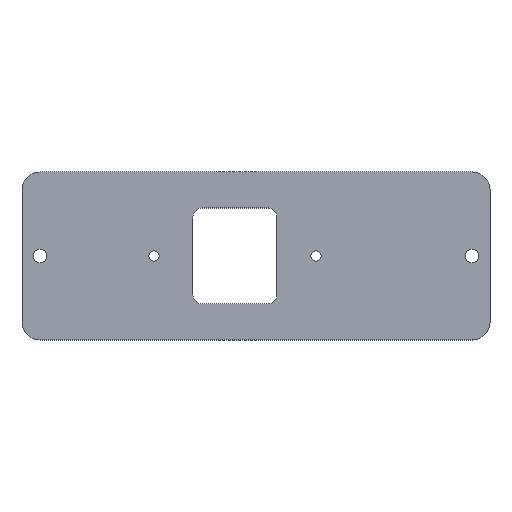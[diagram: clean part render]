
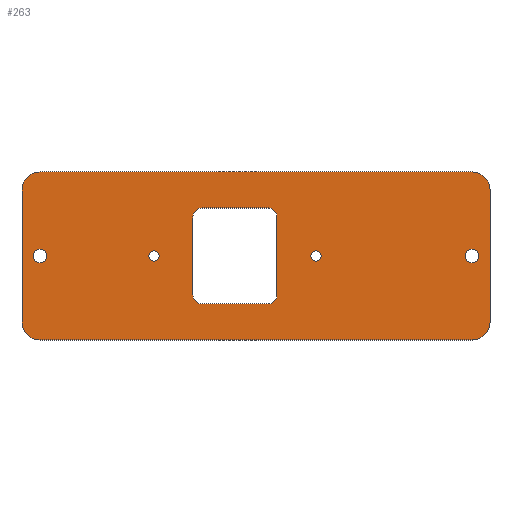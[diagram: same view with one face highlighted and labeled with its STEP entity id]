
A CAD part, top view. The second image highlights one B-rep face of the part: STEP entity #263.
In plain terms, the highlighted planar face has unit normal (0, 0, 1).
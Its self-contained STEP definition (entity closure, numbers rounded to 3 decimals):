
#33 = VERTEX_POINT('',#34);
#34 = CARTESIAN_POINT('',(-9.,15.,-1.2));
#40 = EDGE_CURVE('',#41,#33,#43,.T.);
#41 = VERTEX_POINT('',#42);
#42 = CARTESIAN_POINT('',(-15.,21.,-1.2));
#43 = CIRCLE('',#44,6.);
#44 = AXIS2_PLACEMENT_3D('',#45,#46,#47);
#45 = CARTESIAN_POINT('',(-9.,21.,-1.2));
#46 = DIRECTION('',(0.,0.,1.));
#47 = DIRECTION('',(1.,0.,-0.));
#246 = VERTEX_POINT('',#247);
#247 = CARTESIAN_POINT('',(-15.,65.,-1.2));
#253 = EDGE_CURVE('',#41,#246,#254,.T.);
#254 = LINE('',#255,#256);
#255 = CARTESIAN_POINT('',(-15.,21.,-1.2));
#256 = VECTOR('',#257,1.);
#257 = DIRECTION('',(-0.,1.,0.));
#263 = ADVANCED_FACE('',(#264,#317,#328,#339,#409,#420),#431,.T.);
#264 = FACE_BOUND('',#265,.T.);
#265 = EDGE_LOOP('',(#266,#267,#275,#284,#292,#301,#309,#316));
#266 = ORIENTED_EDGE('',*,*,#40,.T.);
#267 = ORIENTED_EDGE('',*,*,#268,.T.);
#268 = EDGE_CURVE('',#33,#269,#271,.T.);
#269 = VERTEX_POINT('',#270);
#270 = CARTESIAN_POINT('',(135.,15.,-1.2));
#271 = LINE('',#272,#273);
#272 = CARTESIAN_POINT('',(-9.,15.,-1.2));
#273 = VECTOR('',#274,1.);
#274 = DIRECTION('',(1.,0.,-0.));
#275 = ORIENTED_EDGE('',*,*,#276,.T.);
#276 = EDGE_CURVE('',#269,#277,#279,.T.);
#277 = VERTEX_POINT('',#278);
#278 = CARTESIAN_POINT('',(141.,21.,-1.2));
#279 = CIRCLE('',#280,6.);
#280 = AXIS2_PLACEMENT_3D('',#281,#282,#283);
#281 = CARTESIAN_POINT('',(135.,21.,-1.2));
#282 = DIRECTION('',(0.,0.,1.));
#283 = DIRECTION('',(1.,0.,-0.));
#284 = ORIENTED_EDGE('',*,*,#285,.T.);
#285 = EDGE_CURVE('',#277,#286,#288,.T.);
#286 = VERTEX_POINT('',#287);
#287 = CARTESIAN_POINT('',(141.,65.,-1.2));
#288 = LINE('',#289,#290);
#289 = CARTESIAN_POINT('',(141.,21.,-1.2));
#290 = VECTOR('',#291,1.);
#291 = DIRECTION('',(-0.,1.,0.));
#292 = ORIENTED_EDGE('',*,*,#293,.T.);
#293 = EDGE_CURVE('',#286,#294,#296,.T.);
#294 = VERTEX_POINT('',#295);
#295 = CARTESIAN_POINT('',(135.,71.,-1.2));
#296 = CIRCLE('',#297,6.);
#297 = AXIS2_PLACEMENT_3D('',#298,#299,#300);
#298 = CARTESIAN_POINT('',(135.,65.,-1.2));
#299 = DIRECTION('',(0.,0.,1.));
#300 = DIRECTION('',(1.,0.,-0.));
#301 = ORIENTED_EDGE('',*,*,#302,.F.);
#302 = EDGE_CURVE('',#303,#294,#305,.T.);
#303 = VERTEX_POINT('',#304);
#304 = CARTESIAN_POINT('',(-9.,71.,-1.2));
#305 = LINE('',#306,#307);
#306 = CARTESIAN_POINT('',(-9.,71.,-1.2));
#307 = VECTOR('',#308,1.);
#308 = DIRECTION('',(1.,0.,-0.));
#309 = ORIENTED_EDGE('',*,*,#310,.T.);
#310 = EDGE_CURVE('',#303,#246,#311,.T.);
#311 = CIRCLE('',#312,6.);
#312 = AXIS2_PLACEMENT_3D('',#313,#314,#315);
#313 = CARTESIAN_POINT('',(-9.,65.,-1.2));
#314 = DIRECTION('',(0.,0.,1.));
#315 = DIRECTION('',(1.,0.,-0.));
#316 = ORIENTED_EDGE('',*,*,#253,.F.);
#317 = FACE_BOUND('',#318,.T.);
#318 = EDGE_LOOP('',(#319));
#319 = ORIENTED_EDGE('',*,*,#320,.F.);
#320 = EDGE_CURVE('',#321,#321,#323,.T.);
#321 = VERTEX_POINT('',#322);
#322 = CARTESIAN_POINT('',(-6.8,43.,-1.2));
#323 = CIRCLE('',#324,2.2);
#324 = AXIS2_PLACEMENT_3D('',#325,#326,#327);
#325 = CARTESIAN_POINT('',(-9.,43.,-1.2));
#326 = DIRECTION('',(0.,0.,1.));
#327 = DIRECTION('',(1.,0.,-0.));
#328 = FACE_BOUND('',#329,.T.);
#329 = EDGE_LOOP('',(#330));
#330 = ORIENTED_EDGE('',*,*,#331,.F.);
#331 = EDGE_CURVE('',#332,#332,#334,.T.);
#332 = VERTEX_POINT('',#333);
#333 = CARTESIAN_POINT('',(30.7,43.,-1.2));
#334 = CIRCLE('',#335,1.7);
#335 = AXIS2_PLACEMENT_3D('',#336,#337,#338);
#336 = CARTESIAN_POINT('',(29.,43.,-1.2));
#337 = DIRECTION('',(0.,0.,1.));
#338 = DIRECTION('',(1.,0.,-0.));
#339 = FACE_BOUND('',#340,.T.);
#340 = EDGE_LOOP('',(#341,#352,#360,#369,#377,#386,#394,#403));
#341 = ORIENTED_EDGE('',*,*,#342,.F.);
#342 = EDGE_CURVE('',#343,#345,#347,.T.);
#343 = VERTEX_POINT('',#344);
#344 = CARTESIAN_POINT('',(42.,30.,-1.2));
#345 = VERTEX_POINT('',#346);
#346 = CARTESIAN_POINT('',(45.,27.,-1.2));
#347 = CIRCLE('',#348,3.);
#348 = AXIS2_PLACEMENT_3D('',#349,#350,#351);
#349 = CARTESIAN_POINT('',(45.,30.,-1.2));
#350 = DIRECTION('',(0.,0.,1.));
#351 = DIRECTION('',(1.,0.,-0.));
#352 = ORIENTED_EDGE('',*,*,#353,.T.);
#353 = EDGE_CURVE('',#343,#354,#356,.T.);
#354 = VERTEX_POINT('',#355);
#355 = CARTESIAN_POINT('',(42.,56.,-1.2));
#356 = LINE('',#357,#358);
#357 = CARTESIAN_POINT('',(42.,36.5,-1.2));
#358 = VECTOR('',#359,1.);
#359 = DIRECTION('',(-0.,1.,0.));
#360 = ORIENTED_EDGE('',*,*,#361,.F.);
#361 = EDGE_CURVE('',#362,#354,#364,.T.);
#362 = VERTEX_POINT('',#363);
#363 = CARTESIAN_POINT('',(45.,59.,-1.2));
#364 = CIRCLE('',#365,3.);
#365 = AXIS2_PLACEMENT_3D('',#366,#367,#368);
#366 = CARTESIAN_POINT('',(45.,56.,-1.2));
#367 = DIRECTION('',(0.,0.,1.));
#368 = DIRECTION('',(1.,0.,-0.));
#369 = ORIENTED_EDGE('',*,*,#370,.F.);
#370 = EDGE_CURVE('',#371,#362,#373,.T.);
#371 = VERTEX_POINT('',#372);
#372 = CARTESIAN_POINT('',(67.,59.,-1.2));
#373 = LINE('',#374,#375);
#374 = CARTESIAN_POINT('',(54.,59.,-1.2));
#375 = VECTOR('',#376,1.);
#376 = DIRECTION('',(-1.,-0.,0.));
#377 = ORIENTED_EDGE('',*,*,#378,.F.);
#378 = EDGE_CURVE('',#379,#371,#381,.T.);
#379 = VERTEX_POINT('',#380);
#380 = CARTESIAN_POINT('',(70.,56.,-1.2));
#381 = CIRCLE('',#382,3.);
#382 = AXIS2_PLACEMENT_3D('',#383,#384,#385);
#383 = CARTESIAN_POINT('',(67.,56.,-1.2));
#384 = DIRECTION('',(0.,0.,1.));
#385 = DIRECTION('',(1.,0.,-0.));
#386 = ORIENTED_EDGE('',*,*,#387,.F.);
#387 = EDGE_CURVE('',#388,#379,#390,.T.);
#388 = VERTEX_POINT('',#389);
#389 = CARTESIAN_POINT('',(70.,30.,-1.2));
#390 = LINE('',#391,#392);
#391 = CARTESIAN_POINT('',(70.,36.5,-1.2));
#392 = VECTOR('',#393,1.);
#393 = DIRECTION('',(-0.,1.,0.));
#394 = ORIENTED_EDGE('',*,*,#395,.F.);
#395 = EDGE_CURVE('',#396,#388,#398,.T.);
#396 = VERTEX_POINT('',#397);
#397 = CARTESIAN_POINT('',(67.,27.,-1.2));
#398 = CIRCLE('',#399,3.);
#399 = AXIS2_PLACEMENT_3D('',#400,#401,#402);
#400 = CARTESIAN_POINT('',(67.,30.,-1.2));
#401 = DIRECTION('',(0.,0.,1.));
#402 = DIRECTION('',(1.,0.,-0.));
#403 = ORIENTED_EDGE('',*,*,#404,.T.);
#404 = EDGE_CURVE('',#396,#345,#405,.T.);
#405 = LINE('',#406,#407);
#406 = CARTESIAN_POINT('',(54.,27.,-1.2));
#407 = VECTOR('',#408,1.);
#408 = DIRECTION('',(-1.,-0.,0.));
#409 = FACE_BOUND('',#410,.T.);
#410 = EDGE_LOOP('',(#411));
#411 = ORIENTED_EDGE('',*,*,#412,.F.);
#412 = EDGE_CURVE('',#413,#413,#415,.T.);
#413 = VERTEX_POINT('',#414);
#414 = CARTESIAN_POINT('',(84.7,43.,-1.2));
#415 = CIRCLE('',#416,1.7);
#416 = AXIS2_PLACEMENT_3D('',#417,#418,#419);
#417 = CARTESIAN_POINT('',(83.,43.,-1.2));
#418 = DIRECTION('',(0.,0.,1.));
#419 = DIRECTION('',(1.,0.,-0.));
#420 = FACE_BOUND('',#421,.T.);
#421 = EDGE_LOOP('',(#422));
#422 = ORIENTED_EDGE('',*,*,#423,.F.);
#423 = EDGE_CURVE('',#424,#424,#426,.T.);
#424 = VERTEX_POINT('',#425);
#425 = CARTESIAN_POINT('',(137.2,43.,-1.2));
#426 = CIRCLE('',#427,2.2);
#427 = AXIS2_PLACEMENT_3D('',#428,#429,#430);
#428 = CARTESIAN_POINT('',(135.,43.,-1.2));
#429 = DIRECTION('',(0.,0.,1.));
#430 = DIRECTION('',(1.,0.,-0.));
#431 = PLANE('',#432);
#432 = AXIS2_PLACEMENT_3D('',#433,#434,#435);
#433 = CARTESIAN_POINT('',(63.,43.,-1.2));
#434 = DIRECTION('',(0.,0.,1.));
#435 = DIRECTION('',(1.,0.,-0.));
